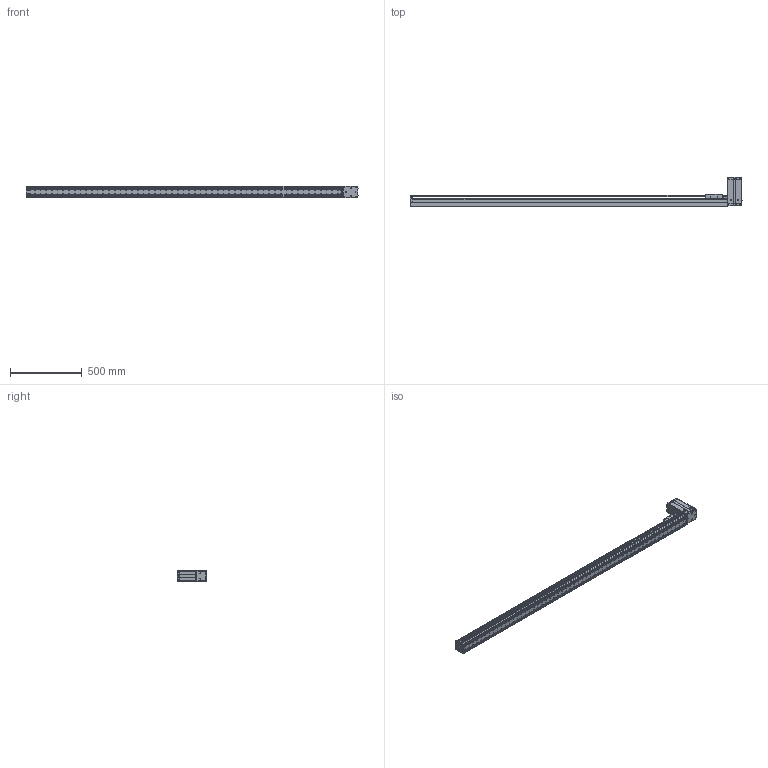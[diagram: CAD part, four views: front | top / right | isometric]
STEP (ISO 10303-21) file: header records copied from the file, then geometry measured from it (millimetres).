
FILE_DESCRIPTION((''),'2;1');
FILE_NAME('BE10_-BT-M_N-L0_IGS_PRT','2017-06-18T',(' '),(''),'PRO/ENGINEER BY PARAMETRIC TECHNOLOGY CORPORATION, 2015030','PRO/ENGINEER BY PARAMETRIC TECHNOLOGY CORPORATION, 2015030','');
FILE_SCHEMA(('CONFIG_CONTROL_DESIGN'));
Products named in the file (1): BE10_-BT-M_N-L0_IGS_PRT
Bounding box: 2320.8 x 204.72 x 78 mm (x, y, z)
Volume: 2999424.6 mm3; surface area: 2116537.7 mm2
Topology: 5 solids, 189 shells, 2416 faces, 6634 edges, 4437 vertices
Faces by surface type: cylinder 1176, plane 1077, cone 107, sphere 28, torus 25, bspline 3
Entity records: 79463 total; most frequent: CARTESIAN_POINT 16479, DIRECTION 13442, ORIENTED_EDGE 12404, EDGE_CURVE 6564, AXIS2_PLACEMENT_3D 4965, VERTEX_POINT 4433, VECTOR 3512, LINE 3512
